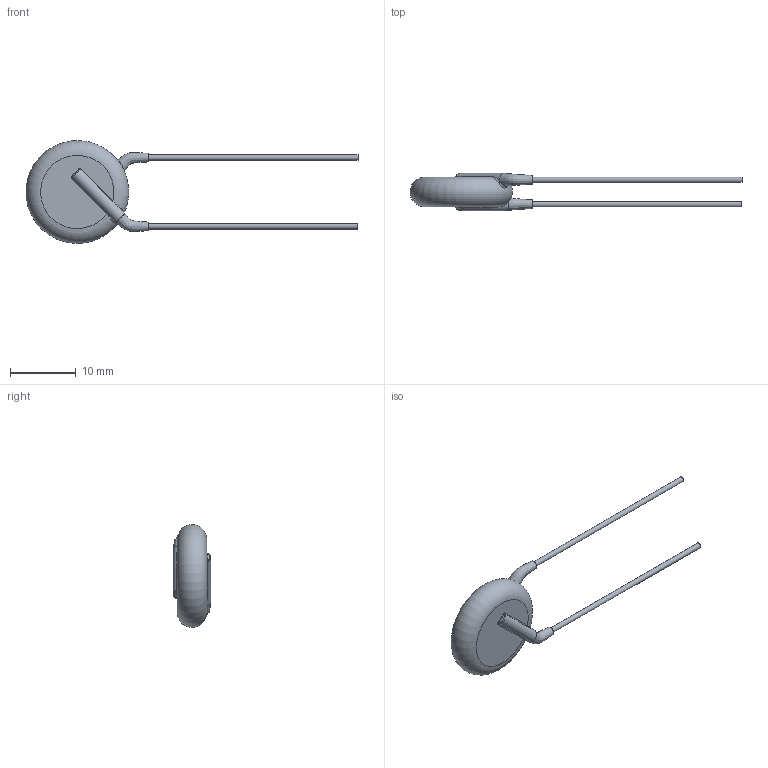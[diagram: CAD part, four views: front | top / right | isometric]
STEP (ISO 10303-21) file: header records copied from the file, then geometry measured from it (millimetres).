
FILE_DESCRIPTION(/* description */ (''),/* implementation_level */ '2;1');
FILE_NAME(/* name */ 'I:\Marketing\M6t1\3D-Models\Zchng-Werk-3\Upload for homepage\Ceramite\Y5U\440LD50-R\440LD50-R.stp',/* time_stamp */ '2016-11-10T14:48:39+01:00',/* author */ ('sheinrich'),/* organization */ (''),/* preprocessor_version */ 'ST-DEVELOPER v16.1',/* originating_system */ 'Autodesk Inventor 2016',/* authorisation */ '');
FILE_SCHEMA (('AUTOMOTIVE_DESIGN { 1 0 10303 214 3 1 1 }'));
Length unit declared in the file: millimetre
Products named in the file (1): 440LD50-R
Bounding box: 50.68 x 5.7 x 15.67 mm (x, y, z)
Volume: 844.5 mm3; surface area: 737.1 mm2
Topology: 1 solids, 1 shells, 39 faces, 84 edges, 45 vertices
Faces by surface type: bspline 12, cylinder 12, plane 8, torus 7
Full cylindrical faces by diameter (mm): 0.81 x2
Entity records: 1822 total; most frequent: CARTESIAN_POINT 1005, ORIENTED_EDGE 152, DIRECTION 144, EDGE_CURVE 76, AXIS2_PLACEMENT_3D 66, EDGE_LOOP 44, VERTEX_POINT 44, STYLED_ITEM 40
